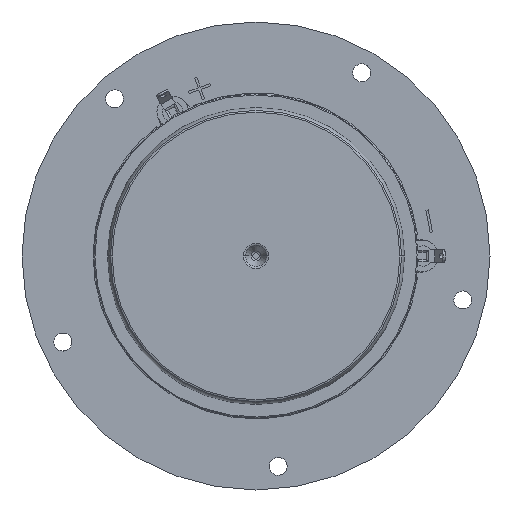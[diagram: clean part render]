
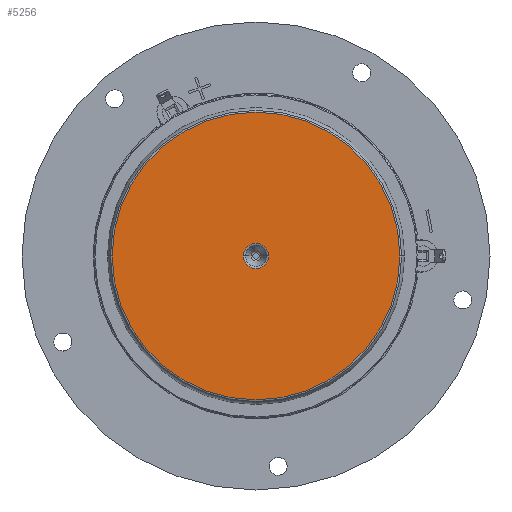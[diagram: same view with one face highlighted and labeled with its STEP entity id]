
A CAD part, front view. The second image highlights one B-rep face of the part: STEP entity #5256.
In plain terms, the highlighted planar face has unit normal (0, -1, 0).
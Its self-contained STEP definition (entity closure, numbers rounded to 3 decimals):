
#59 = ORIENTED_EDGE ( 'NONE', *, *, #6915, .F. ) ;
#270 = VERTEX_POINT ( 'NONE', #10856 ) ;
#562 = DIRECTION ( 'NONE',  ( -1., 0., 0. ) ) ;
#1153 = VERTEX_POINT ( 'NONE', #8938 ) ;
#1357 = VERTEX_POINT ( 'NONE', #3288 ) ;
#2089 = CIRCLE ( 'NONE', #2395, 2.809 ) ;
#2395 = AXIS2_PLACEMENT_3D ( 'NONE', #6526, #6250, #562 ) ;
#3199 = DIRECTION ( 'NONE',  ( -1., 0., 0. ) ) ;
#3288 = CARTESIAN_POINT ( 'NONE',  ( 2.809, 0., 0. ) ) ;
#3582 = PLANE ( 'NONE',  #8933 ) ;
#3895 = CIRCLE ( 'NONE', #17250, 31.962 ) ;
#4571 = EDGE_CURVE ( 'NONE', #4852, #1153, #3895, .T. ) ;
#4852 = VERTEX_POINT ( 'NONE', #14290 ) ;
#5256 = ADVANCED_FACE ( 'NONE', ( #6375, #16298 ), #3582, .T. ) ;
#5437 = DIRECTION ( 'NONE',  ( 0., 1., 0. ) ) ;
#6205 = ORIENTED_EDGE ( 'NONE', *, *, #4571, .F. ) ;
#6250 = DIRECTION ( 'NONE',  ( 0., 1., 0. ) ) ;
#6375 = FACE_BOUND ( 'NONE', #14524, .T. ) ;
#6526 = CARTESIAN_POINT ( 'NONE',  ( 0., 0., 0. ) ) ;
#6859 = CARTESIAN_POINT ( 'NONE',  ( 0., 0., 0. ) ) ;
#6915 = EDGE_CURVE ( 'NONE', #1153, #4852, #8223, .T. ) ;
#7191 = EDGE_CURVE ( 'NONE', #270, #1357, #2089, .T. ) ;
#8151 = EDGE_LOOP ( 'NONE', ( #59, #6205 ) ) ;
#8222 = DIRECTION ( 'NONE',  ( 0., -1., 0. ) ) ;
#8223 = CIRCLE ( 'NONE', #17720, 31.962 ) ;
#8340 = DIRECTION ( 'NONE',  ( -1., 0., 0. ) ) ;
#8933 = AXIS2_PLACEMENT_3D ( 'NONE', #11285, #8222, #15167 ) ;
#8938 = CARTESIAN_POINT ( 'NONE',  ( -31.962, 0., 0. ) ) ;
#10114 = DIRECTION ( 'NONE',  ( -1., 0., 0. ) ) ;
#10345 = DIRECTION ( 'NONE',  ( 0., 1., 0. ) ) ;
#10856 = CARTESIAN_POINT ( 'NONE',  ( -2.809, 0., 0. ) ) ;
#11285 = CARTESIAN_POINT ( 'NONE',  ( 31.962, 0., 0. ) ) ;
#11380 = CARTESIAN_POINT ( 'NONE',  ( 0., 0., 0. ) ) ;
#13078 = CARTESIAN_POINT ( 'NONE',  ( 0., 0., 0. ) ) ;
#14290 = CARTESIAN_POINT ( 'NONE',  ( 31.962, 0., 0. ) ) ;
#14524 = EDGE_LOOP ( 'NONE', ( #17118, #17952 ) ) ;
#14994 = EDGE_CURVE ( 'NONE', #1357, #270, #18349, .T. ) ;
#15167 = DIRECTION ( 'NONE',  ( 1., 0., 0. ) ) ;
#15651 = AXIS2_PLACEMENT_3D ( 'NONE', #13078, #17158, #10114 ) ;
#16298 = FACE_OUTER_BOUND ( 'NONE', #8151, .T. ) ;
#17118 = ORIENTED_EDGE ( 'NONE', *, *, #7191, .T. ) ;
#17158 = DIRECTION ( 'NONE',  ( 0., 1., 0. ) ) ;
#17250 = AXIS2_PLACEMENT_3D ( 'NONE', #11380, #10345, #3199 ) ;
#17720 = AXIS2_PLACEMENT_3D ( 'NONE', #6859, #5437, #8340 ) ;
#17952 = ORIENTED_EDGE ( 'NONE', *, *, #14994, .T. ) ;
#18349 = CIRCLE ( 'NONE', #15651, 2.809 ) ;
